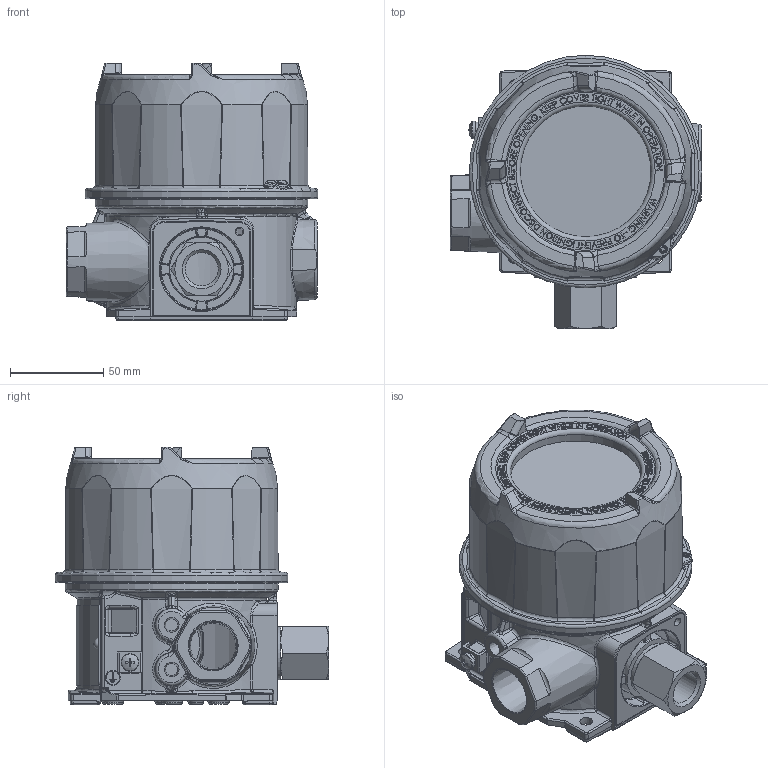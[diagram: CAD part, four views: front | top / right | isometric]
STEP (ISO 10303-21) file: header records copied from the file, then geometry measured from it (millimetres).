
FILE_DESCRIPTION (( 'STEP AP214' ), '1' );
FILE_NAME ('2SLP47_48_49_P06_P20_V7.STEP', '2025-03-13T17:24:52', ( '' ), ( '' ), 'SwSTEP 2.0', 'SolidWorks 2023', '' );
FILE_SCHEMA (( 'AUTOMOTIVE_DESIGN' ));
Products named in the file (1): 2SLP47_48_49_P06_P20_V7
Bounding box: 135 x 146.51 x 138.33 mm (x, y, z)
Surface area: 101250.7 mm2 (no closed solid volume)
Topology: 0 solids, 18 shells, 1603 faces, 4770 edges, 3020 vertices
Faces by surface type: plane 678, bspline 442, cylinder 178, torus 170, cone 108, sphere 27
Full cylindrical faces by diameter (mm): 3.3 x1, 9.5 x1, 17.78 x1, 28.702 x1, 70.104 x1, 114.046 x1, 124.714 x1
Entity records: 77561 total; most frequent: CARTESIAN_POINT 39216, ORIENTED_EDGE 8173, DIRECTION 6747, EDGE_CURVE 4653, VERTEX_POINT 2997, LINE 2513, VECTOR 2513, AXIS2_PLACEMENT_3D 2117
